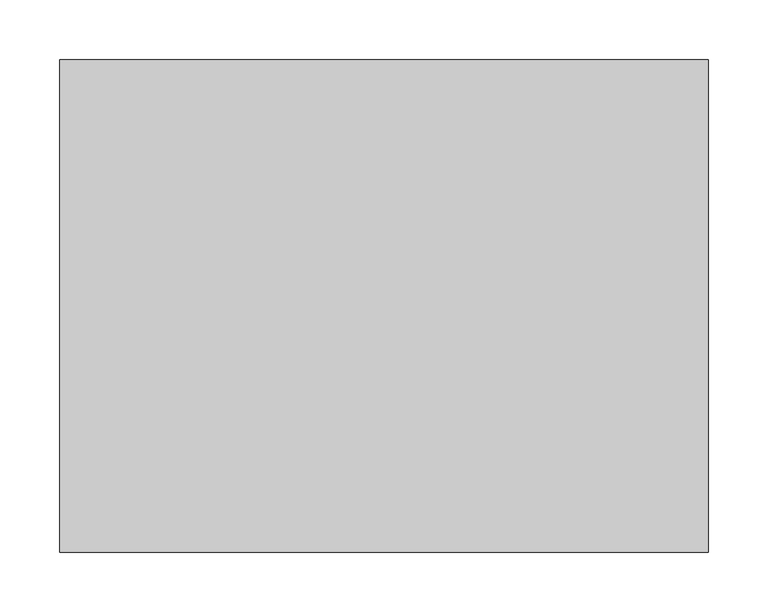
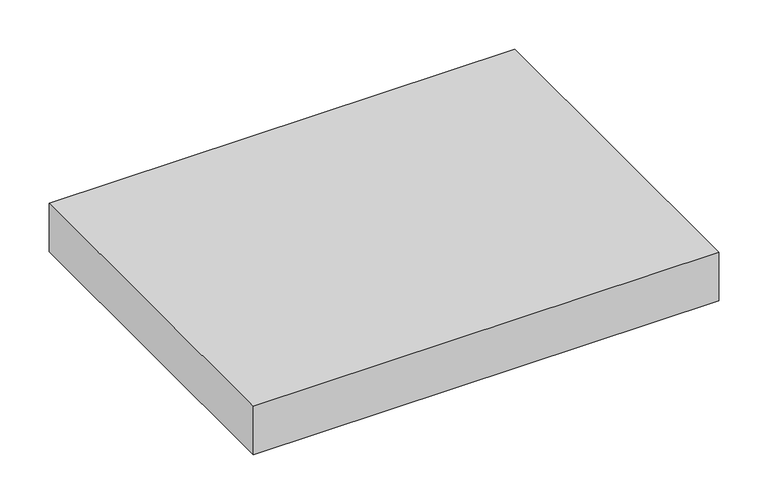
"""IFC4 building model written with IfcOpenShell, lengths in millimetres: geographic element geometry, Enscape AssetDefinition - Floorplan 001 : Enscape AssetDefinition - Floorplan 001."""

from ifc_helpers import new_model, si_unit, origin, place, context, project, spatial, triangles, source, transform, mapped, element, save


def geographic_element_3c927864(model_context):
    return source(origin(), model_context, "Body", "Tessellation", [
        triangles([(270.0353524, -206.6251785, 60.000094), (270.0353524, 206.9653104, 60.000094), (-274.5175642, 206.9653104, 60.000094), (-274.5175642, -206.6251785, 60.000094), (-274.5175642, -206.6251785, 9.9e-05), (-274.5175642, 206.9653104, 9.9e-05), (270.0353524, -206.6251785, 9.9e-05), (270.0353524, 206.9653104, 9.9e-05)], [[7, 6, 8], [5, 6, 7], [2, 8, 6], [3, 2, 6], [1, 7, 8], [2, 1, 8], [4, 5, 7], [1, 4, 7], [3, 6, 5], [4, 3, 5], [1, 2, 3], [4, 1, 3]]),
    ])


if __name__ == "__main__":
    model = new_model("IFC4")
    model_context = context("Model", 3, world=origin())
    ifc_project = project(units=[si_unit("LENGTHUNIT", "METRE", prefix="MILLI")], contexts=[model_context])
    site = spatial("IfcSite", under=ifc_project)
    building = spatial("IfcBuilding", under=site)
    placement = place(None, origin())
    geographic_element_shape = geographic_element_3c927864(model_context)
    element("IfcGeographicElement", 1, ObjectType="Enscape AssetDefinition - Floorplan 001 : Enscape AssetDefinition - Floorplan 001", at=placement, inside=building, context=model_context, shape_type="MappedRepresentation", body=[
        mapped(geographic_element_shape, transform((0.0, 0.0, 0.0), x_axis=(1.0, 0.0, 0.0), y_axis=(0.0, 1.0, 0.0), z_axis=(0.0, 0.0, 1.0))),
    ])
    save(model, "model.ifc")
